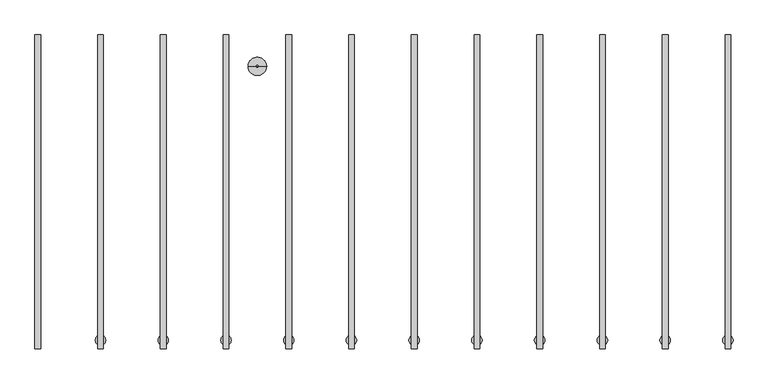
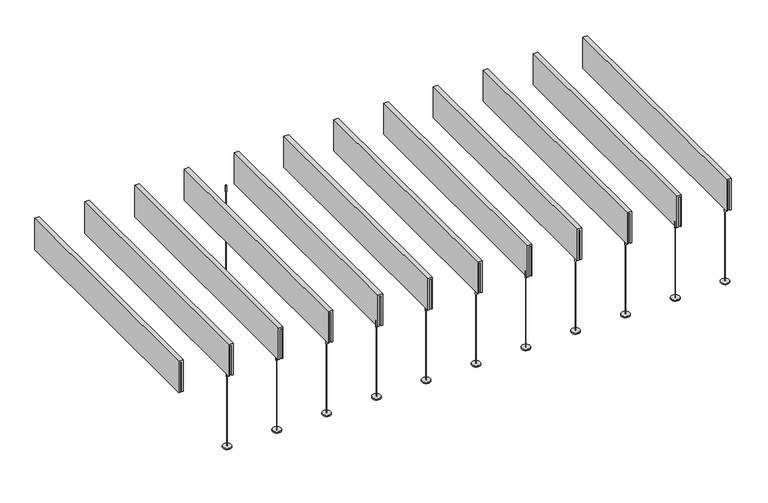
"""IFC4 building model written with IfcOpenShell, lengths in millimetres: light fixture geometry, Lighting_Fixture-Focal_Point-AirCore_Bridge-Cantilever-Seem_1_LED : FSM1SBW125LF30K1CUNVLD1J24_."""

from ifc_helpers import new_model, si_unit, point, frame, frame_2d, origin, origin_with_axes, place, context, project, spatial, polyline, circle_curve, trimmed, segment, composite_curve, outline, extrude, source, transform, mapped, element, save
from ifc_brep_helpers import plane_surface, cylinder_surface, advanced_brep


def light_fixture_c6dd3775(model_context):
    return source(origin(), model_context, "Body", "SolidModel", [
        extrude(outline(polyline([(2280.046875, 123.825), (2291.953125, 123.825), (2291.953125, -1343.025), (2280.046875, -1343.025), (2280.046875, 123.825)])), frame((0.0, 0.0, 486.3703125), z_axis=(0.0, 0.0, 1.0), x_axis=(1.0, 0.0, 0.0)), (0.0, 0.0, 1.0), 195.2625),
        extrude(outline(polyline([(689.5703125, 2299.890625), (689.5703125, 2272.109375), (486.3703125, 2272.109375), (486.3703125, 2280.046875), (681.6328125, 2280.046875), (681.6328125, 2291.953125), (486.3703125, 2291.953125), (486.3703125, 2299.890625), (689.5703125, 2299.890625)])), frame((0.0, -1371.6, 0.0), z_axis=(0.0, 1.0, 0.0), x_axis=(0.0, 0.0, 1.0)), (0.0, 0.0, 1.0), 1524.0),
        advanced_brep(
        [(2286.0, -1330.325, 0.0), (2286.9237535, -1330.325, 0.0), (2285.0762465, -1330.325, 0.0), (2286.9237535, -1330.325, 454.6203125), (2285.0762465, -1330.325, 454.6203125), (2289.96875, -1330.325, 454.6203125), (2282.03125, -1330.325, 454.6203125), (2289.96875, -1330.325, 499.0703125), (2282.03125, -1330.325, 499.0703125), (2286.0, -1330.325, 499.0703125)],
        [
            (0, 1),
            (1, 2, circle_curve(frame((2286.0, -1330.325, 0.0), z_axis=(0.0, 0.0, -1.0), x_axis=(1.0, 0.0, 0.0)), 0.9237535)),
            (2, 0),
            (2, 1, circle_curve(frame((2286.0, -1330.325, 0.0), z_axis=(0.0, 0.0, -1.0), x_axis=(1.0, 0.0, 0.0)), 0.9237535)),
            (1, 3),
            (3, 4, circle_curve(frame((2286.0, -1330.325, 454.6203125), z_axis=(0.0, 0.0, -1.0), x_axis=(1.0, 0.0, 0.0)), 0.9237535)),
            (4, 2),
            (4, 3, circle_curve(frame((2286.0, -1330.325, 454.6203125), z_axis=(0.0, 0.0, -1.0), x_axis=(1.0, 0.0, 0.0)), 0.9237535)),
            (3, 5),
            (5, 6, circle_curve(frame((2286.0, -1330.325, 454.6203125), z_axis=(0.0, 0.0, -1.0), x_axis=(1.0, 0.0, 0.0)), 3.96875)),
            (6, 4),
            (6, 5, circle_curve(frame((2286.0, -1330.325, 454.6203125), z_axis=(0.0, 0.0, -1.0), x_axis=(1.0, 0.0, 0.0)), 3.96875)),
            (5, 7),
            (7, 8, circle_curve(frame((2286.0, -1330.325, 499.0703125), z_axis=(0.0, 0.0, -1.0), x_axis=(1.0, 0.0, 0.0)), 3.96875)),
            (8, 6),
            (8, 7, circle_curve(frame((2286.0, -1330.325, 499.0703125), z_axis=(0.0, 0.0, -1.0), x_axis=(1.0, 0.0, 0.0)), 3.96875)),
            (7, 9),
            (9, 8),
        ],
        [
            plane_surface(frame((2286.0, -1330.325, 0.0), z_axis=(0.0, 0.0, -1.0), x_axis=(1.0, 0.0, 0.0))),
            cylinder_surface(frame((2286.0, -1330.325, 543.5203125), z_axis=(0.0, 0.0, -1.0), x_axis=(1.0, 0.0, 0.0)), 0.9237535),
            plane_surface(frame((2286.0, -1330.325, 454.6203125), z_axis=(0.0, 0.0, -1.0), x_axis=(1.0, 0.0, 0.0))),
            cylinder_surface(frame((2286.0, -1330.325, 543.5203125), z_axis=(0.0, 0.0, -1.0), x_axis=(1.0, 0.0, 0.0)), 3.96875),
            plane_surface(frame((2286.0, -1330.325, 499.0703125), z_axis=(0.0, 0.0, 1.0), x_axis=(1.0, 0.0, 0.0))),
        ],
        [
            (0, [[1, 2, 3]]),
            (0, [[-3, 4, -1]]),
            (1, [[-2, 5, 6, 7]]),
            (1, [[-4, -7, 8, -5]]),
            (2, [[-6, 9, 10, 11]]),
            (2, [[-8, -11, 12, -9]]),
            (3, [[-10, 13, 14, 15]]),
            (3, [[-12, -15, 16, -13]]),
            (4, [[-14, 17, 18]]),
            (4, [[-16, -18, -17]]),
        ],
    ),
        extrude(outline(composite_curve([segment(trimmed(circle_curve(frame_2d((2286.0, -1330.325)), 25.4), [point((2286.0, -1355.725))], [point((2286.0, -1304.925))], False, "CARTESIAN"), True, "CONTINUOUS"), segment(trimmed(circle_curve(frame_2d((2286.0, -1330.325)), 25.4), [point((2286.0, -1304.925))], [point((2286.0, -1355.725))], False, "CARTESIAN"), True, "CONTINUOUS")], self_intersect=False)), origin_with_axes(), (0.0, 0.0, 1.0), 6.35),
        extrude(outline(polyline([(1975.246875, 123.825), (1987.153125, 123.825), (1987.153125, -1343.025), (1975.246875, -1343.025), (1975.246875, 123.825)])), frame((0.0, 0.0, 486.3703125), z_axis=(0.0, 0.0, 1.0), x_axis=(1.0, 0.0, 0.0)), (0.0, 0.0, 1.0), 195.2625),
        extrude(outline(polyline([(689.5703125, 1995.090625), (689.5703125, 1967.309375), (486.3703125, 1967.309375), (486.3703125, 1975.246875), (681.6328125, 1975.246875), (681.6328125, 1987.153125), (486.3703125, 1987.153125), (486.3703125, 1995.090625), (689.5703125, 1995.090625)])), frame((0.0, -1371.6, 0.0), z_axis=(0.0, 1.0, 0.0), x_axis=(0.0, 0.0, 1.0)), (0.0, 0.0, 1.0), 1524.0),
        advanced_brep(
        [(1981.2, -1330.325, 0.0), (1982.1237535, -1330.325, 0.0), (1980.2762465, -1330.325, 0.0), (1982.1237535, -1330.325, 454.6203125), (1980.2762465, -1330.325, 454.6203125), (1985.16875, -1330.325, 454.6203125), (1977.23125, -1330.325, 454.6203125), (1985.16875, -1330.325, 499.0703125), (1977.23125, -1330.325, 499.0703125), (1981.2, -1330.325, 499.0703125)],
        [
            (0, 1),
            (1, 2, circle_curve(frame((1981.2, -1330.325, 0.0), z_axis=(0.0, 0.0, -1.0), x_axis=(1.0, 0.0, 0.0)), 0.9237535)),
            (2, 0),
            (2, 1, circle_curve(frame((1981.2, -1330.325, 0.0), z_axis=(0.0, 0.0, -1.0), x_axis=(1.0, 0.0, 0.0)), 0.9237535)),
            (1, 3),
            (3, 4, circle_curve(frame((1981.2, -1330.325, 454.6203125), z_axis=(0.0, 0.0, -1.0), x_axis=(1.0, 0.0, 0.0)), 0.9237535)),
            (4, 2),
            (4, 3, circle_curve(frame((1981.2, -1330.325, 454.6203125), z_axis=(0.0, 0.0, -1.0), x_axis=(1.0, 0.0, 0.0)), 0.9237535)),
            (3, 5),
            (5, 6, circle_curve(frame((1981.2, -1330.325, 454.6203125), z_axis=(0.0, 0.0, -1.0), x_axis=(1.0, 0.0, 0.0)), 3.96875)),
            (6, 4),
            (6, 5, circle_curve(frame((1981.2, -1330.325, 454.6203125), z_axis=(0.0, 0.0, -1.0), x_axis=(1.0, 0.0, 0.0)), 3.96875)),
            (5, 7),
            (7, 8, circle_curve(frame((1981.2, -1330.325, 499.0703125), z_axis=(0.0, 0.0, -1.0), x_axis=(1.0, 0.0, 0.0)), 3.96875)),
            (8, 6),
            (8, 7, circle_curve(frame((1981.2, -1330.325, 499.0703125), z_axis=(0.0, 0.0, -1.0), x_axis=(1.0, 0.0, 0.0)), 3.96875)),
            (7, 9),
            (9, 8),
        ],
        [
            plane_surface(frame((1981.2, -1330.325, 0.0), z_axis=(0.0, 0.0, -1.0), x_axis=(1.0, 0.0, 0.0))),
            cylinder_surface(frame((1981.2, -1330.325, 543.5203125), z_axis=(0.0, 0.0, -1.0), x_axis=(1.0, 0.0, 0.0)), 0.9237535),
            plane_surface(frame((1981.2, -1330.325, 454.6203125), z_axis=(0.0, 0.0, -1.0), x_axis=(1.0, 0.0, 0.0))),
            cylinder_surface(frame((1981.2, -1330.325, 543.5203125), z_axis=(0.0, 0.0, -1.0), x_axis=(1.0, 0.0, 0.0)), 3.96875),
            plane_surface(frame((1981.2, -1330.325, 499.0703125), z_axis=(0.0, 0.0, 1.0), x_axis=(1.0, 0.0, 0.0))),
        ],
        [
            (0, [[1, 2, 3]]),
            (0, [[-3, 4, -1]]),
            (1, [[-2, 5, 6, 7]]),
            (1, [[-4, -7, 8, -5]]),
            (2, [[-6, 9, 10, 11]]),
            (2, [[-8, -11, 12, -9]]),
            (3, [[-10, 13, 14, 15]]),
            (3, [[-12, -15, 16, -13]]),
            (4, [[-14, 17, 18]]),
            (4, [[-16, -18, -17]]),
        ],
    ),
        extrude(outline(composite_curve([segment(trimmed(circle_curve(frame_2d((1981.2, -1330.325)), 25.4), [point((1981.2, -1355.725))], [point((1981.2, -1304.925))], False, "CARTESIAN"), True, "CONTINUOUS"), segment(trimmed(circle_curve(frame_2d((1981.2, -1330.325)), 25.4), [point((1981.2, -1304.925))], [point((1981.2, -1355.725))], False, "CARTESIAN"), True, "CONTINUOUS")], self_intersect=False)), origin_with_axes(), (0.0, 0.0, 1.0), 6.35),
        extrude(outline(polyline([(1670.446875, 123.825), (1682.353125, 123.825), (1682.353125, -1343.025), (1670.446875, -1343.025), (1670.446875, 123.825)])), frame((0.0, 0.0, 486.3703125), z_axis=(0.0, 0.0, 1.0), x_axis=(1.0, 0.0, 0.0)), (0.0, 0.0, 1.0), 195.2625),
        extrude(outline(polyline([(689.5703125, 1690.290625), (689.5703125, 1662.509375), (486.3703125, 1662.509375), (486.3703125, 1670.446875), (681.6328125, 1670.446875), (681.6328125, 1682.353125), (486.3703125, 1682.353125), (486.3703125, 1690.290625), (689.5703125, 1690.290625)])), frame((0.0, -1371.6, 0.0), z_axis=(0.0, 1.0, 0.0), x_axis=(0.0, 0.0, 1.0)), (0.0, 0.0, 1.0), 1524.0),
        advanced_brep(
        [(1676.4, -1330.325, 0.0), (1677.3237535, -1330.325, 0.0), (1675.4762465, -1330.325, 0.0), (1677.3237535, -1330.325, 454.6203125), (1675.4762465, -1330.325, 454.6203125), (1680.36875, -1330.325, 454.6203125), (1672.43125, -1330.325, 454.6203125), (1680.36875, -1330.325, 499.0703125), (1672.43125, -1330.325, 499.0703125), (1676.4, -1330.325, 499.0703125)],
        [
            (0, 1),
            (1, 2, circle_curve(frame((1676.4, -1330.325, 0.0), z_axis=(0.0, 0.0, -1.0), x_axis=(1.0, 0.0, 0.0)), 0.9237535)),
            (2, 0),
            (2, 1, circle_curve(frame((1676.4, -1330.325, 0.0), z_axis=(0.0, 0.0, -1.0), x_axis=(1.0, 0.0, 0.0)), 0.9237535)),
            (1, 3),
            (3, 4, circle_curve(frame((1676.4, -1330.325, 454.6203125), z_axis=(0.0, 0.0, -1.0), x_axis=(1.0, 0.0, 0.0)), 0.9237535)),
            (4, 2),
            (4, 3, circle_curve(frame((1676.4, -1330.325, 454.6203125), z_axis=(0.0, 0.0, -1.0), x_axis=(1.0, 0.0, 0.0)), 0.9237535)),
            (3, 5),
            (5, 6, circle_curve(frame((1676.4, -1330.325, 454.6203125), z_axis=(0.0, 0.0, -1.0), x_axis=(1.0, 0.0, 0.0)), 3.96875)),
            (6, 4),
            (6, 5, circle_curve(frame((1676.4, -1330.325, 454.6203125), z_axis=(0.0, 0.0, -1.0), x_axis=(1.0, 0.0, 0.0)), 3.96875)),
            (5, 7),
            (7, 8, circle_curve(frame((1676.4, -1330.325, 499.0703125), z_axis=(0.0, 0.0, -1.0), x_axis=(1.0, 0.0, 0.0)), 3.96875)),
            (8, 6),
            (8, 7, circle_curve(frame((1676.4, -1330.325, 499.0703125), z_axis=(0.0, 0.0, -1.0), x_axis=(1.0, 0.0, 0.0)), 3.96875)),
            (7, 9),
            (9, 8),
        ],
        [
            plane_surface(frame((1676.4, -1330.325, 0.0), z_axis=(0.0, 0.0, -1.0), x_axis=(1.0, 0.0, 0.0))),
            cylinder_surface(frame((1676.4, -1330.325, 543.5203125), z_axis=(0.0, 0.0, -1.0), x_axis=(1.0, 0.0, 0.0)), 0.9237535),
            plane_surface(frame((1676.4, -1330.325, 454.6203125), z_axis=(0.0, 0.0, -1.0), x_axis=(1.0, 0.0, 0.0))),
            cylinder_surface(frame((1676.4, -1330.325, 543.5203125), z_axis=(0.0, 0.0, -1.0), x_axis=(1.0, 0.0, 0.0)), 3.96875),
            plane_surface(frame((1676.4, -1330.325, 499.0703125), z_axis=(0.0, 0.0, 1.0), x_axis=(1.0, 0.0, 0.0))),
        ],
        [
            (0, [[1, 2, 3]]),
            (0, [[-3, 4, -1]]),
            (1, [[-2, 5, 6, 7]]),
            (1, [[-4, -7, 8, -5]]),
            (2, [[-6, 9, 10, 11]]),
            (2, [[-8, -11, 12, -9]]),
            (3, [[-10, 13, 14, 15]]),
            (3, [[-12, -15, 16, -13]]),
            (4, [[-14, 17, 18]]),
            (4, [[-16, -18, -17]]),
        ],
    ),
        extrude(outline(composite_curve([segment(trimmed(circle_curve(frame_2d((1676.4, -1330.325)), 25.4), [point((1676.4, -1355.725))], [point((1676.4, -1304.925))], False, "CARTESIAN"), True, "CONTINUOUS"), segment(trimmed(circle_curve(frame_2d((1676.4, -1330.325)), 25.4), [point((1676.4, -1304.925))], [point((1676.4, -1355.725))], False, "CARTESIAN"), True, "CONTINUOUS")], self_intersect=False)), origin_with_axes(), (0.0, 0.0, 1.0), 6.35),
        extrude(outline(polyline([(1365.646875, 123.825), (1377.553125, 123.825), (1377.553125, -1343.025), (1365.646875, -1343.025), (1365.646875, 123.825)])), frame((0.0, 0.0, 486.3703125), z_axis=(0.0, 0.0, 1.0), x_axis=(1.0, 0.0, 0.0)), (0.0, 0.0, 1.0), 195.2625),
        extrude(outline(polyline([(689.5703125, 1385.490625), (689.5703125, 1357.709375), (486.3703125, 1357.709375), (486.3703125, 1365.646875), (681.6328125, 1365.646875), (681.6328125, 1377.553125), (486.3703125, 1377.553125), (486.3703125, 1385.490625), (689.5703125, 1385.490625)])), frame((0.0, -1371.6, 0.0), z_axis=(0.0, 1.0, 0.0), x_axis=(0.0, 0.0, 1.0)), (0.0, 0.0, 1.0), 1524.0),
        advanced_brep(
        [(1371.6, -1330.325, 0.0), (1372.5237535, -1330.325, 0.0), (1370.6762465, -1330.325, 0.0), (1372.5237535, -1330.325, 454.6203125), (1370.6762465, -1330.325, 454.6203125), (1375.56875, -1330.325, 454.6203125), (1367.63125, -1330.325, 454.6203125), (1375.56875, -1330.325, 499.0703125), (1367.63125, -1330.325, 499.0703125), (1371.6, -1330.325, 499.0703125)],
        [
            (0, 1),
            (1, 2, circle_curve(frame((1371.6, -1330.325, 0.0), z_axis=(0.0, 0.0, -1.0), x_axis=(1.0, 0.0, 0.0)), 0.9237535)),
            (2, 0),
            (2, 1, circle_curve(frame((1371.6, -1330.325, 0.0), z_axis=(0.0, 0.0, -1.0), x_axis=(1.0, 0.0, 0.0)), 0.9237535)),
            (1, 3),
            (3, 4, circle_curve(frame((1371.6, -1330.325, 454.6203125), z_axis=(0.0, 0.0, -1.0), x_axis=(1.0, 0.0, 0.0)), 0.9237535)),
            (4, 2),
            (4, 3, circle_curve(frame((1371.6, -1330.325, 454.6203125), z_axis=(0.0, 0.0, -1.0), x_axis=(1.0, 0.0, 0.0)), 0.9237535)),
            (3, 5),
            (5, 6, circle_curve(frame((1371.6, -1330.325, 454.6203125), z_axis=(0.0, 0.0, -1.0), x_axis=(1.0, 0.0, 0.0)), 3.96875)),
            (6, 4),
            (6, 5, circle_curve(frame((1371.6, -1330.325, 454.6203125), z_axis=(0.0, 0.0, -1.0), x_axis=(1.0, 0.0, 0.0)), 3.96875)),
            (5, 7),
            (7, 8, circle_curve(frame((1371.6, -1330.325, 499.0703125), z_axis=(0.0, 0.0, -1.0), x_axis=(1.0, 0.0, 0.0)), 3.96875)),
            (8, 6),
            (8, 7, circle_curve(frame((1371.6, -1330.325, 499.0703125), z_axis=(0.0, 0.0, -1.0), x_axis=(1.0, 0.0, 0.0)), 3.96875)),
            (7, 9),
            (9, 8),
        ],
        [
            plane_surface(frame((1371.6, -1330.325, 0.0), z_axis=(0.0, 0.0, -1.0), x_axis=(1.0, 0.0, 0.0))),
            cylinder_surface(frame((1371.6, -1330.325, 543.5203125), z_axis=(0.0, 0.0, -1.0), x_axis=(1.0, 0.0, 0.0)), 0.9237535),
            plane_surface(frame((1371.6, -1330.325, 454.6203125), z_axis=(0.0, 0.0, -1.0), x_axis=(1.0, 0.0, 0.0))),
            cylinder_surface(frame((1371.6, -1330.325, 543.5203125), z_axis=(0.0, 0.0, -1.0), x_axis=(1.0, 0.0, 0.0)), 3.96875),
            plane_surface(frame((1371.6, -1330.325, 499.0703125), z_axis=(0.0, 0.0, 1.0), x_axis=(1.0, 0.0, 0.0))),
        ],
        [
            (0, [[1, 2, 3]]),
            (0, [[-3, 4, -1]]),
            (1, [[-2, 5, 6, 7]]),
            (1, [[-4, -7, 8, -5]]),
            (2, [[-6, 9, 10, 11]]),
            (2, [[-8, -11, 12, -9]]),
            (3, [[-10, 13, 14, 15]]),
            (3, [[-12, -15, 16, -13]]),
            (4, [[-14, 17, 18]]),
            (4, [[-16, -18, -17]]),
        ],
    ),
        extrude(outline(composite_curve([segment(trimmed(circle_curve(frame_2d((1371.6, -1330.325)), 25.4), [point((1371.6, -1355.725))], [point((1371.6, -1304.925))], False, "CARTESIAN"), True, "CONTINUOUS"), segment(trimmed(circle_curve(frame_2d((1371.6, -1330.325)), 25.4), [point((1371.6, -1304.925))], [point((1371.6, -1355.725))], False, "CARTESIAN"), True, "CONTINUOUS")], self_intersect=False)), origin_with_axes(), (0.0, 0.0, 1.0), 6.35),
        extrude(outline(polyline([(1060.846875, 123.825), (1072.753125, 123.825), (1072.753125, -1343.025), (1060.846875, -1343.025), (1060.846875, 123.825)])), frame((0.0, 0.0, 486.3703125), z_axis=(0.0, 0.0, 1.0), x_axis=(1.0, 0.0, 0.0)), (0.0, 0.0, 1.0), 195.2625),
        extrude(outline(polyline([(689.5703125, 1080.690625), (689.5703125, 1052.909375), (486.3703125, 1052.909375), (486.3703125, 1060.846875), (681.6328125, 1060.846875), (681.6328125, 1072.753125), (486.3703125, 1072.753125), (486.3703125, 1080.690625), (689.5703125, 1080.690625)])), frame((0.0, -1371.6, 0.0), z_axis=(0.0, 1.0, 0.0), x_axis=(0.0, 0.0, 1.0)), (0.0, 0.0, 1.0), 1524.0),
        advanced_brep(
        [(1066.8, -1330.325, 0.0), (1067.7237535, -1330.325, 0.0), (1065.8762465, -1330.325, 0.0), (1067.7237535, -1330.325, 454.6203125), (1065.8762465, -1330.325, 454.6203125), (1070.76875, -1330.325, 454.6203125), (1062.83125, -1330.325, 454.6203125), (1070.76875, -1330.325, 499.0703125), (1062.83125, -1330.325, 499.0703125), (1066.8, -1330.325, 499.0703125)],
        [
            (0, 1),
            (1, 2, circle_curve(frame((1066.8, -1330.325, 0.0), z_axis=(0.0, 0.0, -1.0), x_axis=(1.0, 0.0, 0.0)), 0.9237535)),
            (2, 0),
            (2, 1, circle_curve(frame((1066.8, -1330.325, 0.0), z_axis=(0.0, 0.0, -1.0), x_axis=(1.0, 0.0, 0.0)), 0.9237535)),
            (1, 3),
            (3, 4, circle_curve(frame((1066.8, -1330.325, 454.6203125), z_axis=(0.0, 0.0, -1.0), x_axis=(1.0, 0.0, 0.0)), 0.9237535)),
            (4, 2),
            (4, 3, circle_curve(frame((1066.8, -1330.325, 454.6203125), z_axis=(0.0, 0.0, -1.0), x_axis=(1.0, 0.0, 0.0)), 0.9237535)),
            (3, 5),
            (5, 6, circle_curve(frame((1066.8, -1330.325, 454.6203125), z_axis=(0.0, 0.0, -1.0), x_axis=(1.0, 0.0, 0.0)), 3.96875)),
            (6, 4),
            (6, 5, circle_curve(frame((1066.8, -1330.325, 454.6203125), z_axis=(0.0, 0.0, -1.0), x_axis=(1.0, 0.0, 0.0)), 3.96875)),
            (5, 7),
            (7, 8, circle_curve(frame((1066.8, -1330.325, 499.0703125), z_axis=(0.0, 0.0, -1.0), x_axis=(1.0, 0.0, 0.0)), 3.96875)),
            (8, 6),
            (8, 7, circle_curve(frame((1066.8, -1330.325, 499.0703125), z_axis=(0.0, 0.0, -1.0), x_axis=(1.0, 0.0, 0.0)), 3.96875)),
            (7, 9),
            (9, 8),
        ],
        [
            plane_surface(frame((1066.8, -1330.325, 0.0), z_axis=(0.0, 0.0, -1.0), x_axis=(1.0, 0.0, 0.0))),
            cylinder_surface(frame((1066.8, -1330.325, 543.5203125), z_axis=(0.0, 0.0, -1.0), x_axis=(1.0, 0.0, 0.0)), 0.9237535),
            plane_surface(frame((1066.8, -1330.325, 454.6203125), z_axis=(0.0, 0.0, -1.0), x_axis=(1.0, 0.0, 0.0))),
            cylinder_surface(frame((1066.8, -1330.325, 543.5203125), z_axis=(0.0, 0.0, -1.0), x_axis=(1.0, 0.0, 0.0)), 3.96875),
            plane_surface(frame((1066.8, -1330.325, 499.0703125), z_axis=(0.0, 0.0, 1.0), x_axis=(1.0, 0.0, 0.0))),
        ],
        [
            (0, [[1, 2, 3]]),
            (0, [[-3, 4, -1]]),
            (1, [[-2, 5, 6, 7]]),
            (1, [[-4, -7, 8, -5]]),
            (2, [[-6, 9, 10, 11]]),
            (2, [[-8, -11, 12, -9]]),
            (3, [[-10, 13, 14, 15]]),
            (3, [[-12, -15, 16, -13]]),
            (4, [[-14, 17, 18]]),
            (4, [[-16, -18, -17]]),
        ],
    ),
        extrude(outline(composite_curve([segment(trimmed(circle_curve(frame_2d((1066.8, -1330.325)), 25.4), [point((1066.8, -1355.725))], [point((1066.8, -1304.925))], False, "CARTESIAN"), True, "CONTINUOUS"), segment(trimmed(circle_curve(frame_2d((1066.8, -1330.325)), 25.4), [point((1066.8, -1304.925))], [point((1066.8, -1355.725))], False, "CARTESIAN"), True, "CONTINUOUS")], self_intersect=False)), origin_with_axes(), (0.0, 0.0, 1.0), 6.35),
        extrude(outline(polyline([(756.046875, 123.825), (767.953125, 123.825), (767.953125, -1343.025), (756.046875, -1343.025), (756.046875, 123.825)])), frame((0.0, 0.0, 486.3703125), z_axis=(0.0, 0.0, 1.0), x_axis=(1.0, 0.0, 0.0)), (0.0, 0.0, 1.0), 195.2625),
        extrude(outline(polyline([(689.5703125, 775.890625), (689.5703125, 748.109375), (486.3703125, 748.109375), (486.3703125, 756.046875), (681.6328125, 756.046875), (681.6328125, 767.953125), (486.3703125, 767.953125), (486.3703125, 775.890625), (689.5703125, 775.890625)])), frame((0.0, -1371.6, 0.0), z_axis=(0.0, 1.0, 0.0), x_axis=(0.0, 0.0, 1.0)), (0.0, 0.0, 1.0), 1524.0),
        advanced_brep(
        [(762.0, -1330.325, 0.0), (762.9237535, -1330.325, 0.0), (761.0762465, -1330.325, 0.0), (762.9237535, -1330.325, 454.6203125), (761.0762465, -1330.325, 454.6203125), (765.96875, -1330.325, 454.6203125), (758.03125, -1330.325, 454.6203125), (765.96875, -1330.325, 499.0703125), (758.03125, -1330.325, 499.0703125), (762.0, -1330.325, 499.0703125)],
        [
            (0, 1),
            (1, 2, circle_curve(frame((762.0, -1330.325, 0.0), z_axis=(0.0, 0.0, -1.0), x_axis=(1.0, 0.0, 0.0)), 0.9237535)),
            (2, 0),
            (2, 1, circle_curve(frame((762.0, -1330.325, 0.0), z_axis=(0.0, 0.0, -1.0), x_axis=(1.0, 0.0, 0.0)), 0.9237535)),
            (1, 3),
            (3, 4, circle_curve(frame((762.0, -1330.325, 454.6203125), z_axis=(0.0, 0.0, -1.0), x_axis=(1.0, 0.0, 0.0)), 0.9237535)),
            (4, 2),
            (4, 3, circle_curve(frame((762.0, -1330.325, 454.6203125), z_axis=(0.0, 0.0, -1.0), x_axis=(1.0, 0.0, 0.0)), 0.9237535)),
            (3, 5),
            (5, 6, circle_curve(frame((762.0, -1330.325, 454.6203125), z_axis=(0.0, 0.0, -1.0), x_axis=(1.0, 0.0, 0.0)), 3.96875)),
            (6, 4),
            (6, 5, circle_curve(frame((762.0, -1330.325, 454.6203125), z_axis=(0.0, 0.0, -1.0), x_axis=(1.0, 0.0, 0.0)), 3.96875)),
            (5, 7),
            (7, 8, circle_curve(frame((762.0, -1330.325, 499.0703125), z_axis=(0.0, 0.0, -1.0), x_axis=(1.0, 0.0, 0.0)), 3.96875)),
            (8, 6),
            (8, 7, circle_curve(frame((762.0, -1330.325, 499.0703125), z_axis=(0.0, 0.0, -1.0), x_axis=(1.0, 0.0, 0.0)), 3.96875)),
            (7, 9),
            (9, 8),
        ],
        [
            plane_surface(frame((762.0, -1330.325, 0.0), z_axis=(0.0, 0.0, -1.0), x_axis=(1.0, 0.0, 0.0))),
            cylinder_surface(frame((762.0, -1330.325, 543.5203125), z_axis=(0.0, 0.0, -1.0), x_axis=(1.0, 0.0, 0.0)), 0.9237535),
            plane_surface(frame((762.0, -1330.325, 454.6203125), z_axis=(0.0, 0.0, -1.0), x_axis=(1.0, 0.0, 0.0))),
            cylinder_surface(frame((762.0, -1330.325, 543.5203125), z_axis=(0.0, 0.0, -1.0), x_axis=(1.0, 0.0, 0.0)), 3.96875),
            plane_surface(frame((762.0, -1330.325, 499.0703125), z_axis=(0.0, 0.0, 1.0), x_axis=(1.0, 0.0, 0.0))),
        ],
        [
            (0, [[1, 2, 3]]),
            (0, [[-3, 4, -1]]),
            (1, [[-2, 5, 6, 7]]),
            (1, [[-4, -7, 8, -5]]),
            (2, [[-6, 9, 10, 11]]),
            (2, [[-8, -11, 12, -9]]),
            (3, [[-10, 13, 14, 15]]),
            (3, [[-12, -15, 16, -13]]),
            (4, [[-14, 17, 18]]),
            (4, [[-16, -18, -17]]),
        ],
    ),
        extrude(outline(composite_curve([segment(trimmed(circle_curve(frame_2d((762.0, -1330.325)), 25.4), [point((762.0, -1355.725))], [point((762.0, -1304.925))], False, "CARTESIAN"), True, "CONTINUOUS"), segment(trimmed(circle_curve(frame_2d((762.0, -1330.325)), 25.4), [point((762.0, -1304.925))], [point((762.0, -1355.725))], False, "CARTESIAN"), True, "CONTINUOUS")], self_intersect=False)), origin_with_axes(), (0.0, 0.0, 1.0), 6.35),
        extrude(outline(polyline([(451.246875, 123.825), (463.153125, 123.825), (463.153125, -1343.025), (451.246875, -1343.025), (451.246875, 123.825)])), frame((0.0, 0.0, 486.3703125), z_axis=(0.0, 0.0, 1.0), x_axis=(1.0, 0.0, 0.0)), (0.0, 0.0, 1.0), 195.2625),
        extrude(outline(polyline([(689.5703125, 471.090625), (689.5703125, 443.309375), (486.3703125, 443.309375), (486.3703125, 451.246875), (681.6328125, 451.246875), (681.6328125, 463.153125), (486.3703125, 463.153125), (486.3703125, 471.090625), (689.5703125, 471.090625)])), frame((0.0, -1371.6, 0.0), z_axis=(0.0, 1.0, 0.0), x_axis=(0.0, 0.0, 1.0)), (0.0, 0.0, 1.0), 1524.0),
        advanced_brep(
        [(457.2, -1330.325, 0.0), (458.1237535, -1330.325, 0.0), (456.2762465, -1330.325, 0.0), (458.1237535, -1330.325, 454.6203125), (456.2762465, -1330.325, 454.6203125), (461.16875, -1330.325, 454.6203125), (453.23125, -1330.325, 454.6203125), (461.16875, -1330.325, 499.0703125), (453.23125, -1330.325, 499.0703125), (457.2, -1330.325, 499.0703125)],
        [
            (0, 1),
            (1, 2, circle_curve(frame((457.2, -1330.325, 0.0), z_axis=(0.0, 0.0, -1.0), x_axis=(1.0, 0.0, 0.0)), 0.9237535)),
            (2, 0),
            (2, 1, circle_curve(frame((457.2, -1330.325, 0.0), z_axis=(0.0, 0.0, -1.0), x_axis=(1.0, 0.0, 0.0)), 0.9237535)),
            (1, 3),
            (3, 4, circle_curve(frame((457.2, -1330.325, 454.6203125), z_axis=(0.0, 0.0, -1.0), x_axis=(1.0, 0.0, 0.0)), 0.9237535)),
            (4, 2),
            (4, 3, circle_curve(frame((457.2, -1330.325, 454.6203125), z_axis=(0.0, 0.0, -1.0), x_axis=(1.0, 0.0, 0.0)), 0.9237535)),
            (3, 5),
            (5, 6, circle_curve(frame((457.2, -1330.325, 454.6203125), z_axis=(0.0, 0.0, -1.0), x_axis=(1.0, 0.0, 0.0)), 3.96875)),
            (6, 4),
            (6, 5, circle_curve(frame((457.2, -1330.325, 454.6203125), z_axis=(0.0, 0.0, -1.0), x_axis=(1.0, 0.0, 0.0)), 3.96875)),
            (5, 7),
            (7, 8, circle_curve(frame((457.2, -1330.325, 499.0703125), z_axis=(0.0, 0.0, -1.0), x_axis=(1.0, 0.0, 0.0)), 3.96875)),
            (8, 6),
            (8, 7, circle_curve(frame((457.2, -1330.325, 499.0703125), z_axis=(0.0, 0.0, -1.0), x_axis=(1.0, 0.0, 0.0)), 3.96875)),
            (7, 9),
            (9, 8),
        ],
        [
            plane_surface(frame((457.2, -1330.325, 0.0), z_axis=(0.0, 0.0, -1.0), x_axis=(1.0, 0.0, 0.0))),
            cylinder_surface(frame((457.2, -1330.325, 543.5203125), z_axis=(0.0, 0.0, -1.0), x_axis=(1.0, 0.0, 0.0)), 0.9237535),
            plane_surface(frame((457.2, -1330.325, 454.6203125), z_axis=(0.0, 0.0, -1.0), x_axis=(1.0, 0.0, 0.0))),
            cylinder_surface(frame((457.2, -1330.325, 543.5203125), z_axis=(0.0, 0.0, -1.0), x_axis=(1.0, 0.0, 0.0)), 3.96875),
            plane_surface(frame((457.2, -1330.325, 499.0703125), z_axis=(0.0, 0.0, 1.0), x_axis=(1.0, 0.0, 0.0))),
        ],
        [
            (0, [[1, 2, 3]]),
            (0, [[-3, 4, -1]]),
            (1, [[-2, 5, 6, 7]]),
            (1, [[-4, -7, 8, -5]]),
            (2, [[-6, 9, 10, 11]]),
            (2, [[-8, -11, 12, -9]]),
            (3, [[-10, 13, 14, 15]]),
            (3, [[-12, -15, 16, -13]]),
            (4, [[-14, 17, 18]]),
            (4, [[-16, -18, -17]]),
        ],
    ),
        extrude(outline(composite_curve([segment(trimmed(circle_curve(frame_2d((457.2, -1330.325)), 25.4), [point((457.2, -1355.725))], [point((457.2, -1304.925))], False, "CARTESIAN"), True, "CONTINUOUS"), segment(trimmed(circle_curve(frame_2d((457.2, -1330.325)), 25.4), [point((457.2, -1304.925))], [point((457.2, -1355.725))], False, "CARTESIAN"), True, "CONTINUOUS")], self_intersect=False)), origin_with_axes(), (0.0, 0.0, 1.0), 6.35),
        extrude(outline(polyline([(146.446875, 123.825), (158.353125, 123.825), (158.353125, -1343.025), (146.446875, -1343.025), (146.446875, 123.825)])), frame((0.0, 0.0, 486.3703125), z_axis=(0.0, 0.0, 1.0), x_axis=(1.0, 0.0, 0.0)), (0.0, 0.0, 1.0), 195.2625),
        extrude(outline(polyline([(689.5703125, 166.290625), (689.5703125, 138.509375), (486.3703125, 138.509375), (486.3703125, 146.446875), (681.6328125, 146.446875), (681.6328125, 158.353125), (486.3703125, 158.353125), (486.3703125, 166.290625), (689.5703125, 166.290625)])), frame((0.0, -1371.6, 0.0), z_axis=(0.0, 1.0, 0.0), x_axis=(0.0, 0.0, 1.0)), (0.0, 0.0, 1.0), 1524.0),
        advanced_brep(
        [(152.4, -1330.325, 0.0), (153.3237535, -1330.325, 0.0), (151.4762465, -1330.325, 0.0), (153.3237535, -1330.325, 454.6203125), (151.4762465, -1330.325, 454.6203125), (156.36875, -1330.325, 454.6203125), (148.43125, -1330.325, 454.6203125), (156.36875, -1330.325, 499.0703125), (148.43125, -1330.325, 499.0703125), (152.4, -1330.325, 499.0703125)],
        [
            (0, 1),
            (1, 2, circle_curve(frame((152.4, -1330.325, 0.0), z_axis=(0.0, 0.0, -1.0), x_axis=(1.0, 0.0, 0.0)), 0.9237535)),
            (2, 0),
            (2, 1, circle_curve(frame((152.4, -1330.325, 0.0), z_axis=(0.0, 0.0, -1.0), x_axis=(1.0, 0.0, 0.0)), 0.9237535)),
            (1, 3),
            (3, 4, circle_curve(frame((152.4, -1330.325, 454.6203125), z_axis=(0.0, 0.0, -1.0), x_axis=(1.0, 0.0, 0.0)), 0.9237535)),
            (4, 2),
            (4, 3, circle_curve(frame((152.4, -1330.325, 454.6203125), z_axis=(0.0, 0.0, -1.0), x_axis=(1.0, 0.0, 0.0)), 0.9237535)),
            (3, 5),
            (5, 6, circle_curve(frame((152.4, -1330.325, 454.6203125), z_axis=(0.0, 0.0, -1.0), x_axis=(1.0, 0.0, 0.0)), 3.96875)),
            (6, 4),
            (6, 5, circle_curve(frame((152.4, -1330.325, 454.6203125), z_axis=(0.0, 0.0, -1.0), x_axis=(1.0, 0.0, 0.0)), 3.96875)),
            (5, 7),
            (7, 8, circle_curve(frame((152.4, -1330.325, 499.0703125), z_axis=(0.0, 0.0, -1.0), x_axis=(1.0, 0.0, 0.0)), 3.96875)),
            (8, 6),
            (8, 7, circle_curve(frame((152.4, -1330.325, 499.0703125), z_axis=(0.0, 0.0, -1.0), x_axis=(1.0, 0.0, 0.0)), 3.96875)),
            (7, 9),
            (9, 8),
        ],
        [
            plane_surface(frame((152.4, -1330.325, 0.0), z_axis=(0.0, 0.0, -1.0), x_axis=(1.0, 0.0, 0.0))),
            cylinder_surface(frame((152.4, -1330.325, 543.5203125), z_axis=(0.0, 0.0, -1.0), x_axis=(1.0, 0.0, 0.0)), 0.9237535),
            plane_surface(frame((152.4, -1330.325, 454.6203125), z_axis=(0.0, 0.0, -1.0), x_axis=(1.0, 0.0, 0.0))),
            cylinder_surface(frame((152.4, -1330.325, 543.5203125), z_axis=(0.0, 0.0, -1.0), x_axis=(1.0, 0.0, 0.0)), 3.96875),
            plane_surface(frame((152.4, -1330.325, 499.0703125), z_axis=(0.0, 0.0, 1.0), x_axis=(1.0, 0.0, 0.0))),
        ],
        [
            (0, [[1, 2, 3]]),
            (0, [[-3, 4, -1]]),
            (1, [[-2, 5, 6, 7]]),
            (1, [[-4, -7, 8, -5]]),
            (2, [[-6, 9, 10, 11]]),
            (2, [[-8, -11, 12, -9]]),
            (3, [[-10, 13, 14, 15]]),
            (3, [[-12, -15, 16, -13]]),
            (4, [[-14, 17, 18]]),
            (4, [[-16, -18, -17]]),
        ],
    ),
        extrude(outline(composite_curve([segment(trimmed(circle_curve(frame_2d((152.4, -1330.325)), 25.4), [point((152.4, -1355.725))], [point((152.4, -1304.925))], False, "CARTESIAN"), True, "CONTINUOUS"), segment(trimmed(circle_curve(frame_2d((152.4, -1330.325)), 25.4), [point((152.4, -1304.925))], [point((152.4, -1355.725))], False, "CARTESIAN"), True, "CONTINUOUS")], self_intersect=False)), origin_with_axes(), (0.0, 0.0, 1.0), 6.35),
        extrude(outline(polyline([(-158.353125, 123.825), (-146.446875, 123.825), (-146.446875, -1343.025), (-158.353125, -1343.025), (-158.353125, 123.825)])), frame((0.0, 0.0, 486.3703125), z_axis=(0.0, 0.0, 1.0), x_axis=(1.0, 0.0, 0.0)), (0.0, 0.0, 1.0), 195.2625),
        extrude(outline(polyline([(689.5703125, -138.509375), (689.5703125, -166.290625), (486.3703125, -166.290625), (486.3703125, -158.353125), (681.6328125, -158.353125), (681.6328125, -146.446875), (486.3703125, -146.446875), (486.3703125, -138.509375), (689.5703125, -138.509375)])), frame((0.0, -1371.6, 0.0), z_axis=(0.0, 1.0, 0.0), x_axis=(0.0, 0.0, 1.0)), (0.0, 0.0, 1.0), 1524.0),
        advanced_brep(
        [(-152.4, -1330.325, 0.0), (-151.4762465, -1330.325, 0.0), (-153.3237535, -1330.325, 0.0), (-151.4762465, -1330.325, 454.6203125), (-153.3237535, -1330.325, 454.6203125), (-148.43125, -1330.325, 454.6203125), (-156.36875, -1330.325, 454.6203125), (-148.43125, -1330.325, 499.0703125), (-156.36875, -1330.325, 499.0703125), (-152.4, -1330.325, 499.0703125)],
        [
            (0, 1),
            (1, 2, circle_curve(frame((-152.4, -1330.325, 0.0), z_axis=(0.0, 0.0, -1.0), x_axis=(1.0, 0.0, 0.0)), 0.9237535)),
            (2, 0),
            (2, 1, circle_curve(frame((-152.4, -1330.325, 0.0), z_axis=(0.0, 0.0, -1.0), x_axis=(1.0, 0.0, 0.0)), 0.9237535)),
            (1, 3),
            (3, 4, circle_curve(frame((-152.4, -1330.325, 454.6203125), z_axis=(0.0, 0.0, -1.0), x_axis=(1.0, 0.0, 0.0)), 0.9237535)),
            (4, 2),
            (4, 3, circle_curve(frame((-152.4, -1330.325, 454.6203125), z_axis=(0.0, 0.0, -1.0), x_axis=(1.0, 0.0, 0.0)), 0.9237535)),
            (3, 5),
            (5, 6, circle_curve(frame((-152.4, -1330.325, 454.6203125), z_axis=(0.0, 0.0, -1.0), x_axis=(1.0, 0.0, 0.0)), 3.96875)),
            (6, 4),
            (6, 5, circle_curve(frame((-152.4, -1330.325, 454.6203125), z_axis=(0.0, 0.0, -1.0), x_axis=(1.0, 0.0, 0.0)), 3.96875)),
            (5, 7),
            (7, 8, circle_curve(frame((-152.4, -1330.325, 499.0703125), z_axis=(0.0, 0.0, -1.0), x_axis=(1.0, 0.0, 0.0)), 3.96875)),
            (8, 6),
            (8, 7, circle_curve(frame((-152.4, -1330.325, 499.0703125), z_axis=(0.0, 0.0, -1.0), x_axis=(1.0, 0.0, 0.0)), 3.96875)),
            (7, 9),
            (9, 8),
        ],
        [
            plane_surface(frame((-152.4, -1330.325, 0.0), z_axis=(0.0, 0.0, -1.0), x_axis=(1.0, 0.0, 0.0))),
            cylinder_surface(frame((-152.4, -1330.325, 543.5203125), z_axis=(0.0, 0.0, -1.0), x_axis=(1.0, 0.0, 0.0)), 0.9237535),
            plane_surface(frame((-152.4, -1330.325, 454.6203125), z_axis=(0.0, 0.0, -1.0), x_axis=(1.0, 0.0, 0.0))),
            cylinder_surface(frame((-152.4, -1330.325, 543.5203125), z_axis=(0.0, 0.0, -1.0), x_axis=(1.0, 0.0, 0.0)), 3.96875),
            plane_surface(frame((-152.4, -1330.325, 499.0703125), z_axis=(0.0, 0.0, 1.0), x_axis=(1.0, 0.0, 0.0))),
        ],
        [
            (0, [[1, 2, 3]]),
            (0, [[-3, 4, -1]]),
            (1, [[-2, 5, 6, 7]]),
            (1, [[-4, -7, 8, -5]]),
            (2, [[-6, 9, 10, 11]]),
            (2, [[-8, -11, 12, -9]]),
            (3, [[-10, 13, 14, 15]]),
            (3, [[-12, -15, 16, -13]]),
            (4, [[-14, 17, 18]]),
            (4, [[-16, -18, -17]]),
        ],
    ),
        extrude(outline(composite_curve([segment(trimmed(circle_curve(frame_2d((-152.4, -1330.325)), 25.4), [point((-152.4, -1355.725))], [point((-152.4, -1304.925))], False, "CARTESIAN"), True, "CONTINUOUS"), segment(trimmed(circle_curve(frame_2d((-152.4, -1330.325)), 25.4), [point((-152.4, -1304.925))], [point((-152.4, -1355.725))], False, "CARTESIAN"), True, "CONTINUOUS")], self_intersect=False)), origin_with_axes(), (0.0, 0.0, 1.0), 6.35),
        extrude(outline(polyline([(-463.153125, 123.825), (-451.246875, 123.825), (-451.246875, -1343.025), (-463.153125, -1343.025), (-463.153125, 123.825)])), frame((0.0, 0.0, 486.3703125), z_axis=(0.0, 0.0, 1.0), x_axis=(1.0, 0.0, 0.0)), (0.0, 0.0, 1.0), 195.2625),
        extrude(outline(polyline([(689.5703125, -443.309375), (689.5703125, -471.090625), (486.3703125, -471.090625), (486.3703125, -463.153125), (681.6328125, -463.153125), (681.6328125, -451.246875), (486.3703125, -451.246875), (486.3703125, -443.309375), (689.5703125, -443.309375)])), frame((0.0, -1371.6, 0.0), z_axis=(0.0, 1.0, 0.0), x_axis=(0.0, 0.0, 1.0)), (0.0, 0.0, 1.0), 1524.0),
        advanced_brep(
        [(-457.2, -1330.325, 0.0), (-456.2762465, -1330.325, 0.0), (-458.1237535, -1330.325, 0.0), (-456.2762465, -1330.325, 454.6203125), (-458.1237535, -1330.325, 454.6203125), (-453.23125, -1330.325, 454.6203125), (-461.16875, -1330.325, 454.6203125), (-453.23125, -1330.325, 499.0703125), (-461.16875, -1330.325, 499.0703125), (-457.2, -1330.325, 499.0703125)],
        [
            (0, 1),
            (1, 2, circle_curve(frame((-457.2, -1330.325, 0.0), z_axis=(0.0, 0.0, -1.0), x_axis=(1.0, 0.0, 0.0)), 0.9237535)),
            (2, 0),
            (2, 1, circle_curve(frame((-457.2, -1330.325, 0.0), z_axis=(0.0, 0.0, -1.0), x_axis=(1.0, 0.0, 0.0)), 0.9237535)),
            (1, 3),
            (3, 4, circle_curve(frame((-457.2, -1330.325, 454.6203125), z_axis=(0.0, 0.0, -1.0), x_axis=(1.0, 0.0, 0.0)), 0.9237535)),
            (4, 2),
            (4, 3, circle_curve(frame((-457.2, -1330.325, 454.6203125), z_axis=(0.0, 0.0, -1.0), x_axis=(1.0, 0.0, 0.0)), 0.9237535)),
            (3, 5),
            (5, 6, circle_curve(frame((-457.2, -1330.325, 454.6203125), z_axis=(0.0, 0.0, -1.0), x_axis=(1.0, 0.0, 0.0)), 3.96875)),
            (6, 4),
            (6, 5, circle_curve(frame((-457.2, -1330.325, 454.6203125), z_axis=(0.0, 0.0, -1.0), x_axis=(1.0, 0.0, 0.0)), 3.96875)),
            (5, 7),
            (7, 8, circle_curve(frame((-457.2, -1330.325, 499.0703125), z_axis=(0.0, 0.0, -1.0), x_axis=(1.0, 0.0, 0.0)), 3.96875)),
            (8, 6),
            (8, 7, circle_curve(frame((-457.2, -1330.325, 499.0703125), z_axis=(0.0, 0.0, -1.0), x_axis=(1.0, 0.0, 0.0)), 3.96875)),
            (7, 9),
            (9, 8),
        ],
        [
            plane_surface(frame((-457.2, -1330.325, 0.0), z_axis=(0.0, 0.0, -1.0), x_axis=(1.0, 0.0, 0.0))),
            cylinder_surface(frame((-457.2, -1330.325, 543.5203125), z_axis=(0.0, 0.0, -1.0), x_axis=(1.0, 0.0, 0.0)), 0.9237535),
            plane_surface(frame((-457.2, -1330.325, 454.6203125), z_axis=(0.0, 0.0, -1.0), x_axis=(1.0, 0.0, 0.0))),
            cylinder_surface(frame((-457.2, -1330.325, 543.5203125), z_axis=(0.0, 0.0, -1.0), x_axis=(1.0, 0.0, 0.0)), 3.96875),
            plane_surface(frame((-457.2, -1330.325, 499.0703125), z_axis=(0.0, 0.0, 1.0), x_axis=(1.0, 0.0, 0.0))),
        ],
        [
            (0, [[1, 2, 3]]),
            (0, [[-3, 4, -1]]),
            (1, [[-2, 5, 6, 7]]),
            (1, [[-4, -7, 8, -5]]),
            (2, [[-6, 9, 10, 11]]),
            (2, [[-8, -11, 12, -9]]),
            (3, [[-10, 13, 14, 15]]),
            (3, [[-12, -15, 16, -13]]),
            (4, [[-14, 17, 18]]),
            (4, [[-16, -18, -17]]),
        ],
    ),
        extrude(outline(composite_curve([segment(trimmed(circle_curve(frame_2d((-457.2, -1330.325)), 25.4), [point((-457.2, -1355.725))], [point((-457.2, -1304.925))], False, "CARTESIAN"), True, "CONTINUOUS"), segment(trimmed(circle_curve(frame_2d((-457.2, -1330.325)), 25.4), [point((-457.2, -1304.925))], [point((-457.2, -1355.725))], False, "CARTESIAN"), True, "CONTINUOUS")], self_intersect=False)), origin_with_axes(), (0.0, 0.0, 1.0), 6.35),
        extrude(outline(polyline([(-767.953125, 123.825), (-756.046875, 123.825), (-756.046875, -1343.025), (-767.953125, -1343.025), (-767.953125, 123.825)])), frame((0.0, 0.0, 486.3703125), z_axis=(0.0, 0.0, 1.0), x_axis=(1.0, 0.0, 0.0)), (0.0, 0.0, 1.0), 195.2625),
        extrude(outline(polyline([(689.5703125, -748.109375), (689.5703125, -775.890625), (486.3703125, -775.890625), (486.3703125, -767.953125), (681.6328125, -767.953125), (681.6328125, -756.046875), (486.3703125, -756.046875), (486.3703125, -748.109375), (689.5703125, -748.109375)])), frame((0.0, -1371.6, 0.0), z_axis=(0.0, 1.0, 0.0), x_axis=(0.0, 0.0, 1.0)), (0.0, 0.0, 1.0), 1524.0),
        advanced_brep(
        [(-762.0, -1330.325, 0.0), (-761.0762465, -1330.325, 0.0), (-762.9237535, -1330.325, 0.0), (-761.0762465, -1330.325, 454.6203125), (-762.9237535, -1330.325, 454.6203125), (-758.03125, -1330.325, 454.6203125), (-765.96875, -1330.325, 454.6203125), (-758.03125, -1330.325, 499.0703125), (-765.96875, -1330.325, 499.0703125), (-762.0, -1330.325, 499.0703125)],
        [
            (0, 1),
            (1, 2, circle_curve(frame((-762.0, -1330.325, 0.0), z_axis=(0.0, 0.0, -1.0), x_axis=(1.0, 0.0, 0.0)), 0.9237535)),
            (2, 0),
            (2, 1, circle_curve(frame((-762.0, -1330.325, 0.0), z_axis=(0.0, 0.0, -1.0), x_axis=(1.0, 0.0, 0.0)), 0.9237535)),
            (1, 3),
            (3, 4, circle_curve(frame((-762.0, -1330.325, 454.6203125), z_axis=(0.0, 0.0, -1.0), x_axis=(1.0, 0.0, 0.0)), 0.9237535)),
            (4, 2),
            (4, 3, circle_curve(frame((-762.0, -1330.325, 454.6203125), z_axis=(0.0, 0.0, -1.0), x_axis=(1.0, 0.0, 0.0)), 0.9237535)),
            (3, 5),
            (5, 6, circle_curve(frame((-762.0, -1330.325, 454.6203125), z_axis=(0.0, 0.0, -1.0), x_axis=(1.0, 0.0, 0.0)), 3.96875)),
            (6, 4),
            (6, 5, circle_curve(frame((-762.0, -1330.325, 454.6203125), z_axis=(0.0, 0.0, -1.0), x_axis=(1.0, 0.0, 0.0)), 3.96875)),
            (5, 7),
            (7, 8, circle_curve(frame((-762.0, -1330.325, 499.0703125), z_axis=(0.0, 0.0, -1.0), x_axis=(1.0, 0.0, 0.0)), 3.96875)),
            (8, 6),
            (8, 7, circle_curve(frame((-762.0, -1330.325, 499.0703125), z_axis=(0.0, 0.0, -1.0), x_axis=(1.0, 0.0, 0.0)), 3.96875)),
            (7, 9),
            (9, 8),
        ],
        [
            plane_surface(frame((-762.0, -1330.325, 0.0), z_axis=(0.0, 0.0, -1.0), x_axis=(1.0, 0.0, 0.0))),
            cylinder_surface(frame((-762.0, -1330.325, 543.5203125), z_axis=(0.0, 0.0, -1.0), x_axis=(1.0, 0.0, 0.0)), 0.9237535),
            plane_surface(frame((-762.0, -1330.325, 454.6203125), z_axis=(0.0, 0.0, -1.0), x_axis=(1.0, 0.0, 0.0))),
            cylinder_surface(frame((-762.0, -1330.325, 543.5203125), z_axis=(0.0, 0.0, -1.0), x_axis=(1.0, 0.0, 0.0)), 3.96875),
            plane_surface(frame((-762.0, -1330.325, 499.0703125), z_axis=(0.0, 0.0, 1.0), x_axis=(1.0, 0.0, 0.0))),
        ],
        [
            (0, [[1, 2, 3]]),
            (0, [[-3, 4, -1]]),
            (1, [[-2, 5, 6, 7]]),
            (1, [[-4, -7, 8, -5]]),
            (2, [[-6, 9, 10, 11]]),
            (2, [[-8, -11, 12, -9]]),
            (3, [[-10, 13, 14, 15]]),
            (3, [[-12, -15, 16, -13]]),
            (4, [[-14, 17, 18]]),
            (4, [[-16, -18, -17]]),
        ],
    ),
        extrude(outline(composite_curve([segment(trimmed(circle_curve(frame_2d((-762.0, -1330.325)), 25.4), [point((-762.0, -1355.725))], [point((-762.0, -1304.925))], False, "CARTESIAN"), True, "CONTINUOUS"), segment(trimmed(circle_curve(frame_2d((-762.0, -1330.325)), 25.4), [point((-762.0, -1304.925))], [point((-762.0, -1355.725))], False, "CARTESIAN"), True, "CONTINUOUS")], self_intersect=False)), origin_with_axes(), (0.0, 0.0, 1.0), 6.35),
        advanced_brep(
        [(2.1602631, 0.0, 6.35), (-2.1602631, 0.0, 6.35), (-2.1602631, 0.0, 578.5929436), (2.1602631, 0.0, 578.5929436), (4.6304584, 0.0, 617.2870305), (-4.6304584, 0.0, 617.2870305), (0.0, 0.0, 617.2870305), (4.6304584, 0.0, 578.5929436), (-4.6304584, 0.0, 578.5929436), (44.45, 0.0, 6.35), (-44.45, 0.0, 6.35), (44.45, 0.0, 0.0), (-44.45, 0.0, 0.0), (0.0, 0.0, 0.0)],
        [
            (0, 1, circle_curve(frame((0.0, 0.0, 6.35), z_axis=(0.0, 0.0, 1.0), x_axis=(-1.0, 0.0, 0.0)), 2.1602631)),
            (1, 2),
            (2, 3, circle_curve(frame((0.0, 0.0, 578.5929436), z_axis=(0.0, 0.0, -1.0), x_axis=(-1.0, 0.0, 0.0)), 2.1602631)),
            (3, 0),
            (1, 0, circle_curve(frame((0.0, 0.0, 6.35), z_axis=(0.0, 0.0, 1.0), x_axis=(-1.0, 0.0, 0.0)), 2.1602631)),
            (3, 2, circle_curve(frame((0.0, 0.0, 578.5929436), z_axis=(0.0, 0.0, -1.0), x_axis=(-1.0, 0.0, 0.0)), 2.1602631)),
            (4, 5, circle_curve(frame((0.0, 0.0, 617.2870305), z_axis=(0.0, 0.0, 1.0), x_axis=(-1.0, 0.0, 0.0)), 4.6304584)),
            (5, 6),
            (6, 4),
            (5, 4, circle_curve(frame((0.0, 0.0, 617.2870305), z_axis=(0.0, 0.0, 1.0), x_axis=(-1.0, 0.0, 0.0)), 4.6304584)),
            (7, 8, circle_curve(frame((0.0, 0.0, 578.5929436), z_axis=(0.0, 0.0, 1.0), x_axis=(-1.0, 0.0, 0.0)), 4.6304584)),
            (8, 5),
            (4, 7),
            (8, 7, circle_curve(frame((0.0, 0.0, 578.5929436), z_axis=(0.0, 0.0, 1.0), x_axis=(-1.0, 0.0, 0.0)), 4.6304584)),
            (2, 8),
            (7, 3),
            (9, 10, circle_curve(frame((0.0, 0.0, 6.35), z_axis=(0.0, 0.0, 1.0), x_axis=(-1.0, 0.0, 0.0)), 44.45)),
            (10, 1),
            (0, 9),
            (10, 9, circle_curve(frame((0.0, 0.0, 6.35), z_axis=(0.0, 0.0, 1.0), x_axis=(-1.0, 0.0, 0.0)), 44.45)),
            (11, 12, circle_curve(frame((0.0, 0.0, 0.0), z_axis=(0.0, 0.0, 1.0), x_axis=(-1.0, 0.0, 0.0)), 44.45)),
            (12, 10),
            (9, 11),
            (12, 11, circle_curve(frame((0.0, 0.0, 0.0), z_axis=(0.0, 0.0, 1.0), x_axis=(-1.0, 0.0, 0.0)), 44.45)),
            (13, 12),
            (11, 13),
        ],
        [
            cylinder_surface(frame((0.0, 0.0, 1013.5679436), z_axis=(0.0, 0.0, -1.0), x_axis=(-1.0, 0.0, 0.0)), 2.1602631),
            plane_surface(frame((0.0, 0.0, 617.2870305), z_axis=(0.0, 0.0, 1.0), x_axis=(-1.0, 0.0, 0.0))),
            cylinder_surface(frame((0.0, 0.0, 1013.5679436), z_axis=(0.0, 0.0, -1.0), x_axis=(-1.0, 0.0, 0.0)), 4.6304584),
            plane_surface(frame((0.0, 0.0, 578.5929436), z_axis=(0.0, 0.0, -1.0), x_axis=(-1.0, 0.0, 0.0))),
            plane_surface(frame((0.0, 0.0, 6.35), z_axis=(0.0, 0.0, 1.0), x_axis=(-1.0, 0.0, 0.0))),
            cylinder_surface(frame((0.0, 0.0, 1013.5679436), z_axis=(0.0, 0.0, -1.0), x_axis=(-1.0, 0.0, 0.0)), 44.45),
            plane_surface(frame((0.0, 0.0, 0.0), z_axis=(0.0, 0.0, -1.0), x_axis=(-1.0, 0.0, 0.0))),
        ],
        [
            (0, [[1, 2, 3, 4]]),
            (0, [[5, -4, 6, -2]]),
            (1, [[7, 8, 9]]),
            (1, [[10, -9, -8]]),
            (2, [[11, 12, -7, 13]]),
            (2, [[14, -13, -10, -12]]),
            (3, [[-3, 15, -11, 16]]),
            (3, [[-6, -16, -14, -15]]),
            (4, [[17, 18, -1, 19]]),
            (4, [[20, -19, -5, -18]]),
            (5, [[21, 22, -17, 23]]),
            (5, [[24, -23, -20, -22]]),
            (6, [[25, -21, 26]]),
            (6, [[-26, -24, -25]]),
        ],
    ),
        extrude(outline(polyline([(-1072.753125, 123.825), (-1060.846875, 123.825), (-1060.846875, -1343.025), (-1072.753125, -1343.025), (-1072.753125, 123.825)])), frame((0.0, 0.0, 486.3703125), z_axis=(0.0, 0.0, 1.0), x_axis=(1.0, 0.0, 0.0)), (0.0, 0.0, 1.0), 195.2625),
        extrude(outline(polyline([(689.5703125, -1052.909375), (689.5703125, -1080.690625), (486.3703125, -1080.690625), (486.3703125, -1072.753125), (681.6328125, -1072.753125), (681.6328125, -1060.846875), (486.3703125, -1060.846875), (486.3703125, -1052.909375), (689.5703125, -1052.909375)])), frame((0.0, -1371.6, 0.0), z_axis=(0.0, 1.0, 0.0), x_axis=(0.0, 0.0, 1.0)), (0.0, 0.0, 1.0), 1524.0),
    ])


if __name__ == "__main__":
    model = new_model("IFC4")
    model_context = context("Model", 3, world=origin())
    ifc_project = project(units=[si_unit("LENGTHUNIT", "METRE", prefix="MILLI")], contexts=[model_context])
    site = spatial("IfcSite", under=ifc_project)
    building = spatial("IfcBuilding", under=site)
    placement = place(None, origin())
    light_fixture_shape = light_fixture_c6dd3775(model_context)
    element("IfcLightFixture", 1, ObjectType="Lighting_Fixture-Focal_Point-AirCore_Bridge-Cantilever-Seem_1_LED : FSM1SBW125LF30K1CUNVLD1J24_", at=placement, inside=building, context=model_context, shape_type="MappedRepresentation", body=[
        mapped(light_fixture_shape, transform((0.0, 0.0, 0.0), x_axis=(1.0, 0.0, 0.0), y_axis=(0.0, 1.0, 0.0), z_axis=(0.0, 0.0, 1.0))),
    ])
    save(model, "model.ifc")
